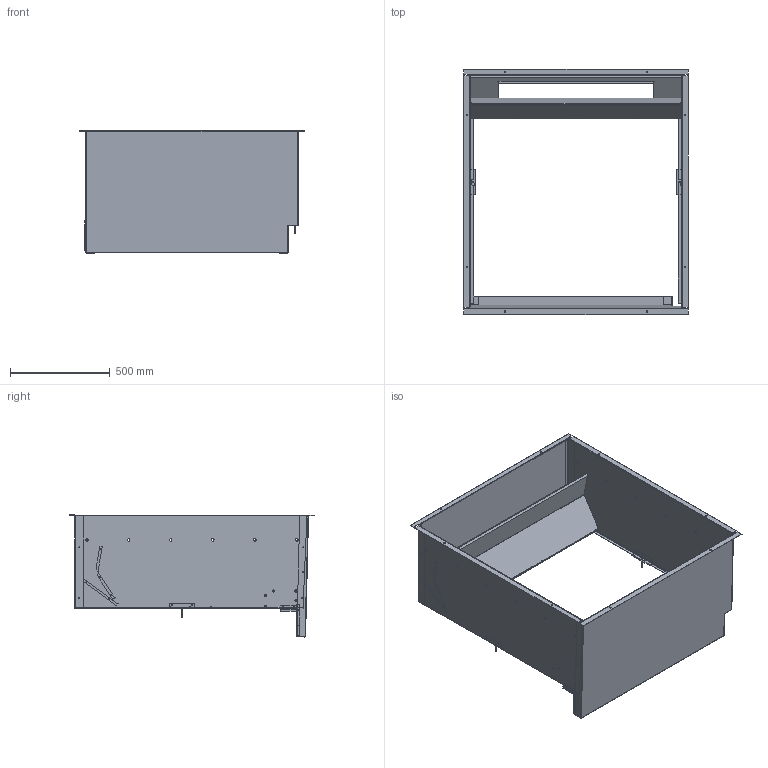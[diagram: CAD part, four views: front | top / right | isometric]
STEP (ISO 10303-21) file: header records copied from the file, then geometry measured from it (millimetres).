
FILE_DESCRIPTION (( 'STEP AP203' ), '1' );
FILE_NAME ('QWS48A-H19.STEP', '2014-03-18T10:53:58', ( 'generic' ), ( 'Hewlett-Packard Company' ), 'SwSTEP 2.0', 'SolidWorks 2014', '' );
FILE_SCHEMA (( 'CONFIG_CONTROL_DESIGN' ));
Length unit declared in the file: inch
Products named in the file (10): 104-1060; 1012-036; 110-098; QWS48A-H19; 110-100; 110-099; 110-101; 136-450; 130-128; 120-375
Assembly tree (11 placements, depth 2):
  QWS48A-H19
    110-098
    110-100
    110-099
    110-101
    136-450
    130-128
    120-375
    104-1060  x2
    1012-036  x2
Bounding box: 1127.85 x 1231.95 x 613.14 mm (x, y, z)
Volume: 4527060.1 mm3; surface area: 6382037.2 mm2
Topology: 11 solids, 11 shells, 990 faces, 2324 edges, 1348 vertices
Faces by surface type: plane 369, cylinder 313, cone 236, bspline 32, sphere 20, torus 20
Entity records: 26826 total; most frequent: CARTESIAN_POINT 5764, DIRECTION 4292, ORIENTED_EDGE 4022, EDGE_CURVE 2011, AXIS2_PLACEMENT_3D 1593, VERTEX_POINT 1183, VECTOR 1106, LINE 1106
